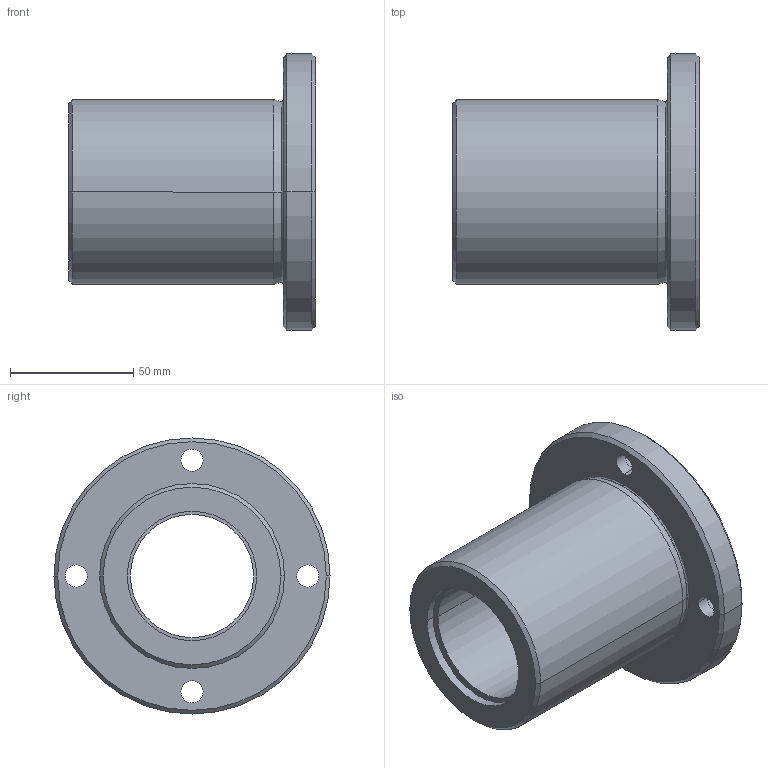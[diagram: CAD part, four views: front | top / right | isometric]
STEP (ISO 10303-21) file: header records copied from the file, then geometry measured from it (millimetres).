
FILE_DESCRIPTION (( 'STEP AP214' ), '1' );
FILE_NAME ('2.7065 Lineaarilaakeri LMEF50UU.STEP', '2024-06-17T11:35:07', ( '' ), ( '' ), 'SwSTEP 2.0', 'SolidWorks 2024', '' );
FILE_SCHEMA (( 'AUTOMOTIVE_DESIGN' ));
Length unit declared in the file: millimetre
Products named in the file (1): 2.7065 Lineaarilaakeri LMEF50UU
Bounding box: 100 x 112 x 112 mm (x, y, z)
Volume: 305830.4 mm3; surface area: 59575 mm2
Topology: 1 solids, 1 shells, 53 faces, 116 edges, 74 vertices
Faces by surface type: cylinder 30, plane 11, cone 8, torus 4
Entity records: 1531 total; most frequent: DIRECTION 302, CARTESIAN_POINT 244, ORIENTED_EDGE 232, AXIS2_PLACEMENT_3D 132, EDGE_CURVE 116, CIRCLE 78, VERTEX_POINT 74, EDGE_LOOP 72
